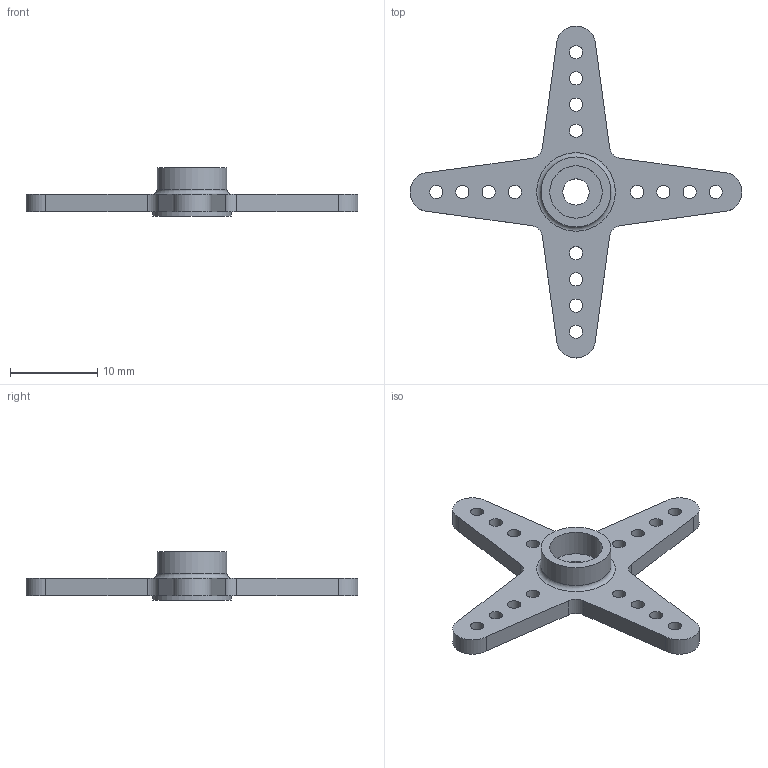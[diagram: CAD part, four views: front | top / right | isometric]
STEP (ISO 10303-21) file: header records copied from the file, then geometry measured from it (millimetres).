
FILE_DESCRIPTION(/* description */ ('STEP AP242 Edition 2','CAx-IF Rec.Pracs.---Representation and Presentation of Product Manufacturing Information (PMI)---4.0---2014-10-13','CAx-IF Rec.Pracs.---3D Tessellated Geometry---0.4---2014-09-14','2;1','CAx-IF Rec.Pracs.---User Defined Attributes---1.5---2016-08-15'),/* implementation_level */ '2;1');
FILE_NAME(/* name */ 'Assembly 1 - Part 1 (3)',/* time_stamp */ '2026-06-19T18:21:07Z',/* author */ (''),/* organization */ (''),/* preprocessor_version */ 'ST-DEVELOPER v20',/* originating_system */ 'ONSHAPE BY PTC INC, 1.216',/* authorisation */ ' ');
FILE_SCHEMA (('AP242_MANAGED_MODEL_BASED_3D_ENGINEERING_MIM_LF { 1 0 10303 442 3 1 4 }'));
Length unit declared in the file: metre
Products named in the file (1): Part 1
Bounding box: 38 x 38 x 5.5 mm (x, y, z)
Volume: 834.4 mm3; surface area: 1343.2 mm2
Topology: 1 solids, 1 shells, 44 faces, 114 edges, 76 vertices
Faces by surface type: cylinder 29, plane 14, torus 1
Full cylindrical faces by diameter (mm): 1.5 x16, 3 x1, 6 x1, 8 x2, 9 x1
Entity records: 1348 total; most frequent: DIRECTION 240, CARTESIAN_POINT 211, ORIENTED_EDGE 182, EDGE_LOOP 104, FACE_BOUND 104, AXIS2_PLACEMENT_3D 104, EDGE_CURVE 91, VERTEX_POINT 75
